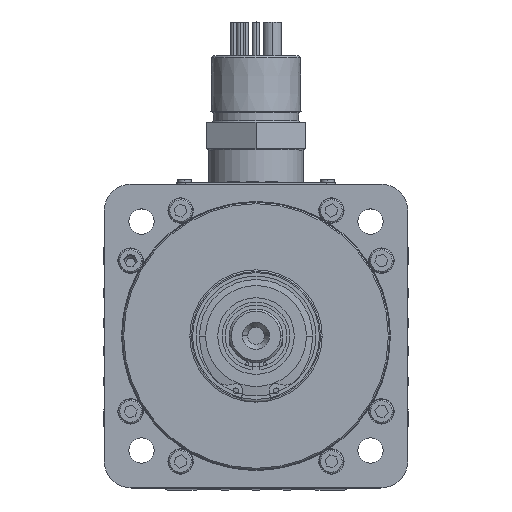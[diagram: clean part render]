
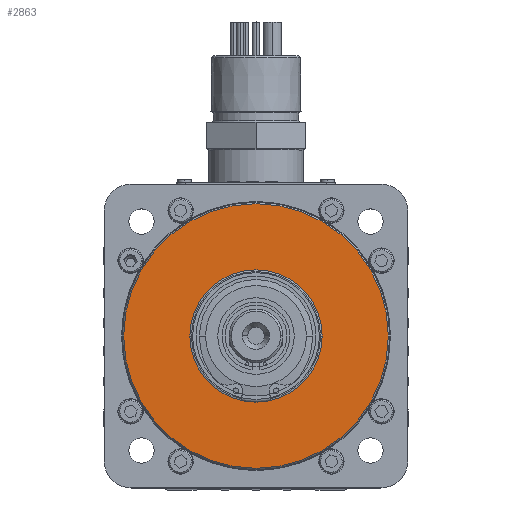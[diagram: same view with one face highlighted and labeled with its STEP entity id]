
A CAD part, top view. The second image highlights one B-rep face of the part: STEP entity #2863.
In plain terms, the highlighted planar face has unit normal (0, 0, 1).
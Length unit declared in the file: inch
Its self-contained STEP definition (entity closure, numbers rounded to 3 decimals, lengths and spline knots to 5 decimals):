
#2262 = EDGE_CURVE ( 'NONE', #2263, #2264, #34347, .T. ) ;
#2263 = VERTEX_POINT ( 'NONE', #34342 ) ;
#2264 = VERTEX_POINT ( 'NONE', #34214 ) ;
#2278 = VERTEX_POINT ( 'NONE', #34426 ) ;
#2280 = EDGE_CURVE ( 'NONE', #2278, #2281, #34386, .T. ) ;
#2281 = VERTEX_POINT ( 'NONE', #34421 ) ;
#2837 = ORIENTED_EDGE ( 'NONE', *, *, #2838, .T. ) ;
#2838 = EDGE_CURVE ( 'NONE', #2264, #2263, #35518, .T. ) ;
#2839 = ORIENTED_EDGE ( 'NONE', *, *, #2262, .T. ) ;
#2840 = EDGE_LOOP ( 'NONE', ( #2841, #2842 ) ) ;
#2841 = ORIENTED_EDGE ( 'NONE', *, *, #2862, .F. ) ;
#2842 = ORIENTED_EDGE ( 'NONE', *, *, #2280, .F. ) ;
#2862 = EDGE_CURVE ( 'NONE', #2281, #2278, #36157, .T. ) ;
#2863 = ADVANCED_FACE ( 'NONE', ( #36148, #36146 ), #36202, .T. ) ;
#2864 = EDGE_LOOP ( 'NONE', ( #2837, #2839 ) ) ;
#34214 = CARTESIAN_POINT ( 'NONE',  ( -1.8501, 0., 0. ) ) ;
#34342 = CARTESIAN_POINT ( 'NONE',  ( 1.8501, 0., 0. ) ) ;
#34343 = DIRECTION ( 'NONE',  ( 1., 0., 0. ) ) ;
#34344 = DIRECTION ( 'NONE',  ( 0., 0., 1. ) ) ;
#34345 = CARTESIAN_POINT ( 'NONE',  ( 0., 0., 0. ) ) ;
#34346 = AXIS2_PLACEMENT_3D ( 'NONE', #34345, #34344, #34343 ) ;
#34347 = CIRCLE ( 'NONE', #34346, 1.8501 ) ;
#34379 = DIRECTION ( 'NONE',  ( 1., 0., 0. ) ) ;
#34381 = DIRECTION ( 'NONE',  ( 0., 0., 1. ) ) ;
#34383 = CARTESIAN_POINT ( 'NONE',  ( 0., 0., 0. ) ) ;
#34385 = AXIS2_PLACEMENT_3D ( 'NONE', #34383, #34381, #34379 ) ;
#34386 = CIRCLE ( 'NONE', #34385, 0.9254 ) ;
#34421 = CARTESIAN_POINT ( 'NONE',  ( 0.9254, 0., 0. ) ) ;
#34426 = CARTESIAN_POINT ( 'NONE',  ( -0.9254, 0., 0. ) ) ;
#35514 = DIRECTION ( 'NONE',  ( 1., 0., 0. ) ) ;
#35515 = DIRECTION ( 'NONE',  ( 0., 0., 1. ) ) ;
#35516 = CARTESIAN_POINT ( 'NONE',  ( 0., 0., 0. ) ) ;
#35517 = AXIS2_PLACEMENT_3D ( 'NONE', #35516, #35515, #35514 ) ;
#35518 = CIRCLE ( 'NONE', #35517, 1.8501 ) ;
#36146 = FACE_BOUND ( 'NONE', #2840, .T. ) ;
#36148 = FACE_OUTER_BOUND ( 'NONE', #2864, .T. ) ;
#36150 = DIRECTION ( 'NONE',  ( 1., 0., 0. ) ) ;
#36152 = DIRECTION ( 'NONE',  ( 0., 0., 1. ) ) ;
#36154 = CARTESIAN_POINT ( 'NONE',  ( 0., 0., 0. ) ) ;
#36156 = AXIS2_PLACEMENT_3D ( 'NONE', #36154, #36152, #36150 ) ;
#36157 = CIRCLE ( 'NONE', #36156, 0.9254 ) ;
#36198 = DIRECTION ( 'NONE',  ( 1., 0., 0. ) ) ;
#36199 = DIRECTION ( 'NONE',  ( 0., 0., 1. ) ) ;
#36200 = CARTESIAN_POINT ( 'NONE',  ( 0., 0.9254, 0. ) ) ;
#36201 = AXIS2_PLACEMENT_3D ( 'NONE', #36200, #36199, #36198 ) ;
#36202 = PLANE ( 'NONE',  #36201 ) ;
